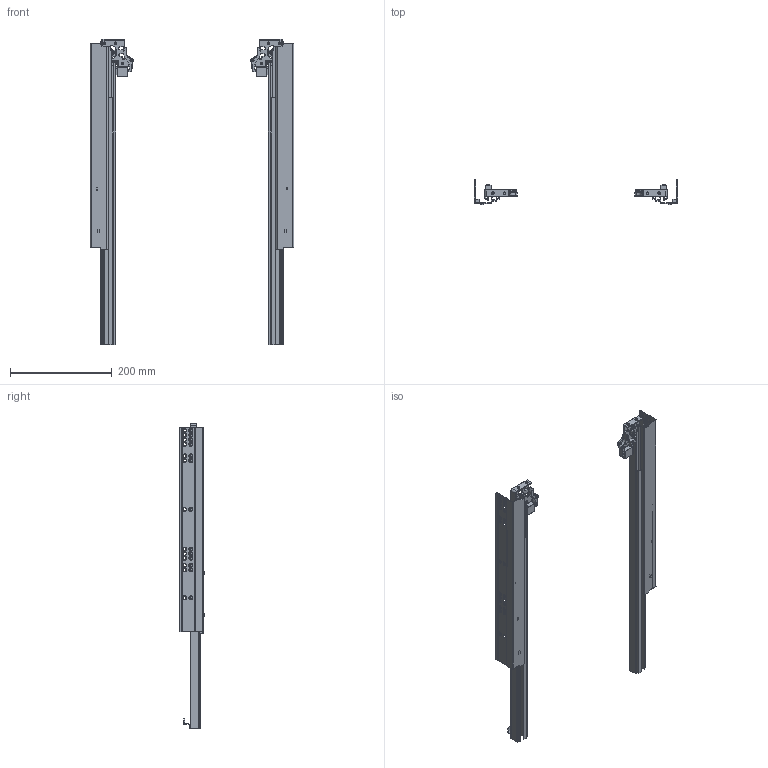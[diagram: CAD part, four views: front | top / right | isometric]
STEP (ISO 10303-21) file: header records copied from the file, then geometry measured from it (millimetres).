
FILE_DESCRIPTION(/* description */ (''),/* implementation_level */ '2;1');
FILE_NAME(/* name */ 'D:\$Workingspace\Designs\Katalog\Cadsoft\GTV Prowadnice\Prowadnice GTV_bryły 3D\PB-0FPO-600.stp',/* time_stamp */ '2016-11-21T12:00:22+01:00',/* author */ ('tomaszw'),/* organization */ (''),/* preprocessor_version */ 'ST-DEVELOPER v16.1',/* originating_system */ 'Autodesk Inventor 2016',/* authorisation */ '');
FILE_SCHEMA (('AUTOMOTIVE_DESIGN { 1 0 10303 214 3 1 1 }'));
Length unit declared in the file: millimetre
Products named in the file (9): PB-0FPO-CL-600; PB-0FPO-CR-600; PB-0FPO-DL-600; PB-0FPO-DR-600; PB-0FPO-DWL-600; PB-0FPO-DWR-600; PB-0FPO-SL; PB-0FPO-SR; PB-0FPO
Assembly tree (8 placements, depth 2):
  PB-0FPO
    PB-0FPO-CL-600
    PB-0FPO-CR-600
    PB-0FPO-DL-600
    PB-0FPO-DR-600
    PB-0FPO-DWL-600
    PB-0FPO-DWR-600
    PB-0FPO-SL
    PB-0FPO-SR
Bounding box: 400 x 48.8 x 600 mm (x, y, z)
Volume: 360622.4 mm3; surface area: 451445.2 mm2
Topology: 16 solids, 16 shells, 1892 faces, 4380 edges, 2526 vertices
Faces by surface type: cylinder 796, plane 444, torus 366, sphere 198, cone 52, bspline 36
Full cylindrical faces by diameter (mm): 3 x2, 4 x6, 4.5 x6, 5 x2, 6 x52, 7.889 x2
Entity records: 56601 total; most frequent: CARTESIAN_POINT 11187, DIRECTION 10022, ORIENTED_EDGE 8332, EDGE_CURVE 4166, AXIS2_PLACEMENT_3D 4051, VERTEX_POINT 2468, EDGE_LOOP 2206, CIRCLE 2166
